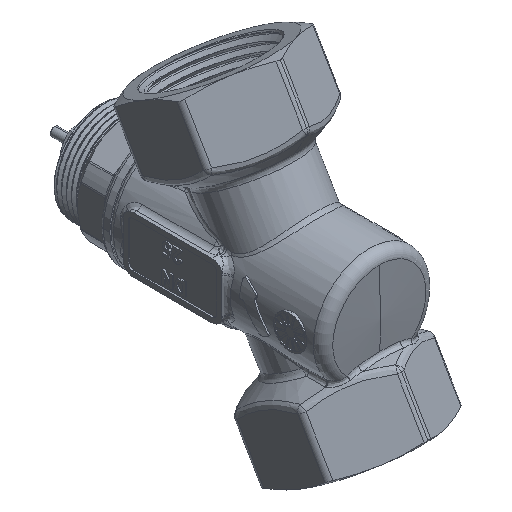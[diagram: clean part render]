
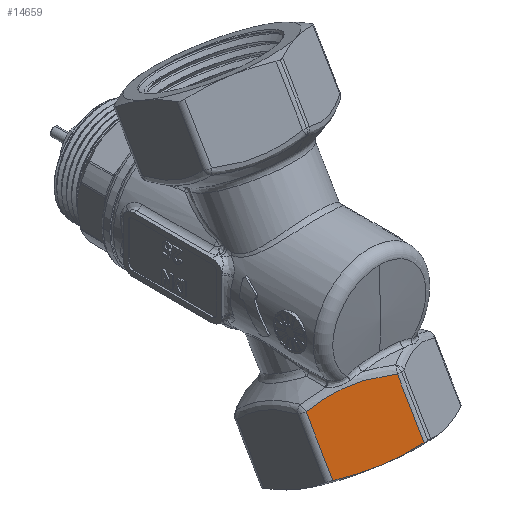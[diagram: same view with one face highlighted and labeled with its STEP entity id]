
A CAD part, isometric view. The second image highlights one B-rep face of the part: STEP entity #14659.
In plain terms, the highlighted planar face has unit normal (-0.5, -0.75, 0.433).
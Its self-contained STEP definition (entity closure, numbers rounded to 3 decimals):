
#889 = CARTESIAN_POINT ( 'NONE',  ( -1., -100.395, -24.868 ) ) ;
#1775 = DIRECTION ( 'NONE',  ( 0.5, 0.75, -0.433 ) ) ;
#1881 = CARTESIAN_POINT ( 'NONE',  ( -11.792, -95.475, -28.807 ) ) ;
#2836 = ORIENTED_EDGE ( 'NONE', *, *, #24879, .T. ) ;
#2933 = CARTESIAN_POINT ( 'NONE',  ( -9.447, -87.207, -11.779 ) ) ;
#3277 = EDGE_CURVE ( 'NONE', #4767, #32998, #10994, .T. ) ;
#3667 = B_SPLINE_CURVE_WITH_KNOTS ( 'NONE', 3,
 ( #15370, #1881, #8222, #28210, #41087, #12202 ),
 .UNSPECIFIED., .F., .F.,
 ( 4, 2, 4 ),
 ( 0.011, 0.016, 0.021 ),
 .UNSPECIFIED. ) ;
#4767 = VERTEX_POINT ( 'NONE', #13897 ) ;
#5723 = LINE ( 'NONE', #19200, #24575 ) ;
#5992 = CARTESIAN_POINT ( 'NONE',  ( -7.167, -97.744, -27.398 ) ) ;
#6191 = CARTESIAN_POINT ( 'NONE',  ( -4.083, -99.123, -26.225 ) ) ;
#7685 = CARTESIAN_POINT ( 'NONE',  ( -22.642, -79.55, -13.753 ) ) ;
#8222 = CARTESIAN_POINT ( 'NONE',  ( -13.333, -94.661, -29.178 ) ) ;
#8660 = CARTESIAN_POINT ( 'NONE',  ( -11.801, -86.048, -12.491 ) ) ;
#9476 = CARTESIAN_POINT ( 'NONE',  ( -17.991, -83.509, -15.241 ) ) ;
#10994 = LINE ( 'NONE', #36914, #18097 ) ;
#11732 = ORIENTED_EDGE ( 'NONE', *, *, #3277, .T. ) ;
#12117 = CARTESIAN_POINT ( 'NONE',  ( -2.542, -99.774, -25.572 ) ) ;
#12202 = CARTESIAN_POINT ( 'NONE',  ( -19.5, -91.145, -30.208 ) ) ;
#12735 = CARTESIAN_POINT ( 'NONE',  ( -10.25, -96.246, -28.362 ) ) ;
#13897 = CARTESIAN_POINT ( 'NONE',  ( -19.5, -83.006, -16.112 ) ) ;
#14635 = ORIENTED_EDGE ( 'NONE', *, *, #29568, .T. ) ;
#14659 = ADVANCED_FACE ( 'NONE', ( #24140 ), #33816, .F. ) ;
#14974 = CARTESIAN_POINT ( 'NONE',  ( -2.506, -91.252, -10.771 ) ) ;
#15370 = CARTESIAN_POINT ( 'NONE',  ( -10.25, -96.246, -28.362 ) ) ;
#15643 = CARTESIAN_POINT ( 'NONE',  ( -19.5, -91.145, -30.208 ) ) ;
#15825 = EDGE_CURVE ( 'NONE', #29440, #32998, #3667, .T. ) ;
#17536 = VERTEX_POINT ( 'NONE', #35542 ) ;
#18097 = VECTOR ( 'NONE', #36703, 1000. ) ;
#18545 = CARTESIAN_POINT ( 'NONE',  ( -1., -92.256, -10.771 ) ) ;
#19047 = CARTESIAN_POINT ( 'NONE',  ( -8.708, -97.017, -27.917 ) ) ;
#19200 = CARTESIAN_POINT ( 'NONE',  ( -1., -90.371, -7.506 ) ) ;
#20094 = ORIENTED_EDGE ( 'NONE', *, *, #23993, .F. ) ;
#21926 = CARTESIAN_POINT ( 'NONE',  ( -19.5, -83.006, -16.112 ) ) ;
#22026 = CARTESIAN_POINT ( 'NONE',  ( -1., -100.395, -24.868 ) ) ;
#22346 = CARTESIAN_POINT ( 'NONE',  ( -16.467, -84.063, -14.44 ) ) ;
#23993 = EDGE_CURVE ( 'NONE', #24211, #29440, #34637, .T. ) ;
#24140 = FACE_OUTER_BOUND ( 'NONE', #27483, .T. ) ;
#24211 = VERTEX_POINT ( 'NONE', #889 ) ;
#24575 = VECTOR ( 'NONE', #38388, 1000. ) ;
#24879 = EDGE_CURVE ( 'NONE', #17536, #4767, #38907, .T. ) ;
#24882 = CARTESIAN_POINT ( 'NONE',  ( -14.147, -85.007, -13.396 ) ) ;
#25073 = CARTESIAN_POINT ( 'NONE',  ( -11.018, -86.421, -12.232 ) ) ;
#25491 = CARTESIAN_POINT ( 'NONE',  ( -6.331, -88.916, -11.143 ) ) ;
#27483 = EDGE_LOOP ( 'NONE', ( #20094, #14635, #2836, #11732, #29455 ) ) ;
#28210 = CARTESIAN_POINT ( 'NONE',  ( -16.417, -92.956, -29.785 ) ) ;
#29440 = VERTEX_POINT ( 'NONE', #31228 ) ;
#29455 = ORIENTED_EDGE ( 'NONE', *, *, #15825, .F. ) ;
#29568 = EDGE_CURVE ( 'NONE', #24211, #17536, #5723, .T. ) ;
#30011 = AXIS2_PLACEMENT_3D ( 'NONE', #7685, #1775, #39930 ) ;
#31191 = CARTESIAN_POINT ( 'NONE',  ( -4.025, -90.285, -10.851 ) ) ;
#31228 = CARTESIAN_POINT ( 'NONE',  ( -10.25, -96.246, -28.362 ) ) ;
#32998 = VERTEX_POINT ( 'NONE', #15643 ) ;
#33816 = PLANE ( 'NONE',  #30011 ) ;
#34637 = B_SPLINE_CURVE_WITH_KNOTS ( 'NONE', 3,
 ( #22026, #12117, #6191, #5992, #19047, #12735 ),
 .UNSPECIFIED., .F., .F.,
 ( 4, 2, 4 ),
 ( 0., 0.005, 0.011 ),
 .UNSPECIFIED. ) ;
#35542 = CARTESIAN_POINT ( 'NONE',  ( -1., -92.256, -10.771 ) ) ;
#36703 = DIRECTION ( 'NONE',  ( 0., -0.5, -0.866 ) ) ;
#36914 = CARTESIAN_POINT ( 'NONE',  ( -19.5, -81.121, -12.846 ) ) ;
#38354 = CARTESIAN_POINT ( 'NONE',  ( -8.661, -87.62, -11.587 ) ) ;
#38388 = DIRECTION ( 'NONE',  ( 0., 0.5, 0.866 ) ) ;
#38907 = B_SPLINE_CURVE_WITH_KNOTS ( 'NONE', 3,
 ( #18545, #14974, #31191, #25491, #40899, #38354, #2933, #25073, #8660, #41103, #24882, #22346, #9476, #21926 ),
 .UNSPECIFIED., .F., .F.,
 ( 4, 2, 2, 2, 2, 2, 4 ),
 ( 0., 0.005, 0.008, 0.011, 0.013, 0.016, 0.022 ),
 .UNSPECIFIED. ) ;
#39930 = DIRECTION ( 'NONE',  ( -0.832, 0.555, 0. ) ) ;
#40899 = CARTESIAN_POINT ( 'NONE',  ( -7.104, -88.474, -11.269 ) ) ;
#41087 = CARTESIAN_POINT ( 'NONE',  ( -17.958, -92.065, -30.022 ) ) ;
#41103 = CARTESIAN_POINT ( 'NONE',  ( -13.367, -85.341, -13.073 ) ) ;
